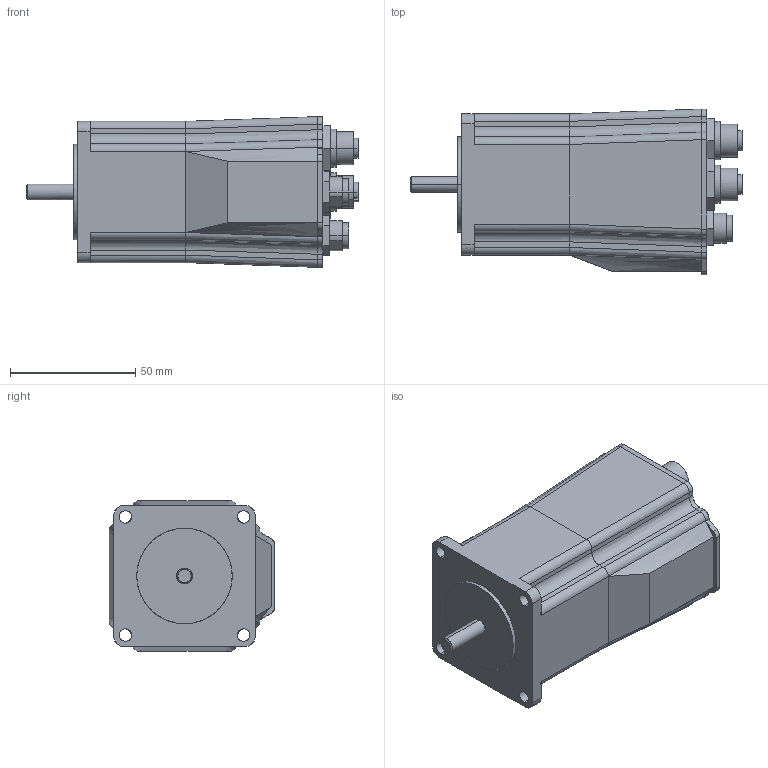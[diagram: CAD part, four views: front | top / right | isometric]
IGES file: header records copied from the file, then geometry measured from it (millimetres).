
Start section: Comment
Global section: file name: LT0093-10GB.igs; native system:  By UGS Corp.; preprocessor: XPlus GENERIC/IGES 3.0; author: Jørgen; organization: www.stream-design.com; date: 20071009.103127; units: millimetre
Bounding box: 132.6 x 66.2 x 60.2 mm (x, y, z)
Surface area: 32093.1 mm2 (no closed solid volume)
Topology: 0 solids, 0 shells, 229 faces, 1118 edges, 1118 vertices
Faces by surface type: bspline 229
